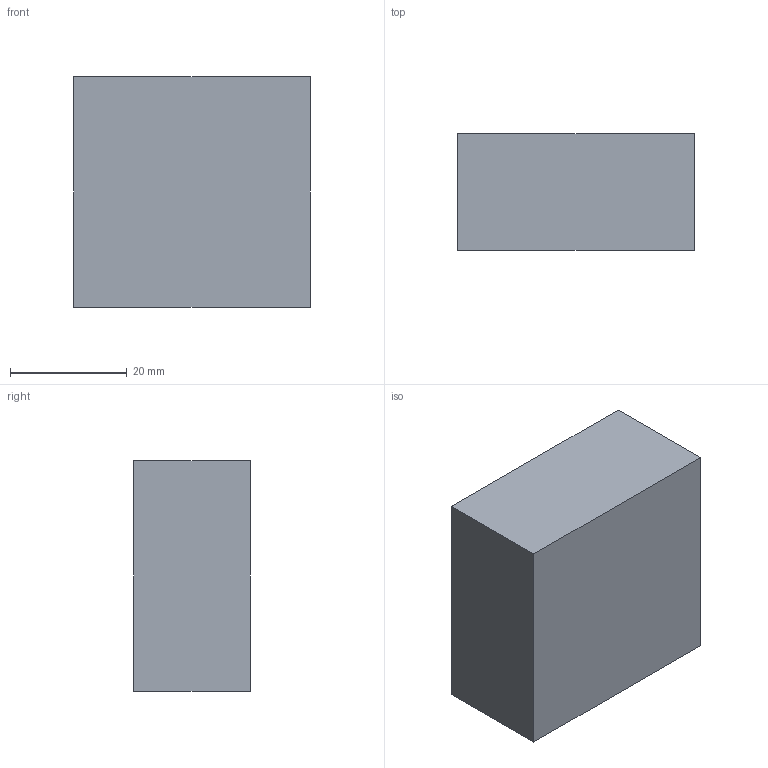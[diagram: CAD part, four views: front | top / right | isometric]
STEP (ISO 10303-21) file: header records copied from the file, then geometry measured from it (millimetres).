
FILE_DESCRIPTION (( 'STEP AP203' ), '1' );
FILE_NAME ('V2_REF_MG995_envelope.STEP', '2026-09-18T10:18:06', ( '15300530775@163.com' ), ( '' ), 'SwSTEP 2.0', 'SolidWorks 2026', '' );
FILE_SCHEMA (( 'CONFIG_CONTROL_DESIGN' ));
Length unit declared in the file: millimetre
Products named in the file (1): V2_REF_MG995_envelope
Bounding box: 40.5 x 20 x 39.5 mm (x, y, z)
Volume: 31995 mm3; surface area: 6399.5 mm2
Topology: 1 solids, 1 shells, 6 faces, 12 edges, 8 vertices
Faces by surface type: plane 6
Entity records: 233 total; most frequent: CARTESIAN_POINT 27, DIRECTION 26, ORIENTED_EDGE 24, VECTOR 12, EDGE_CURVE 12, LINE 12, PERSON_AND_ORGANIZATION 8, VERTEX_POINT 8
